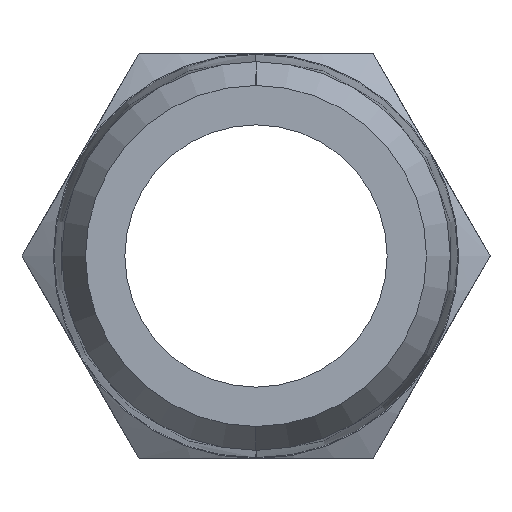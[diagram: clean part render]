
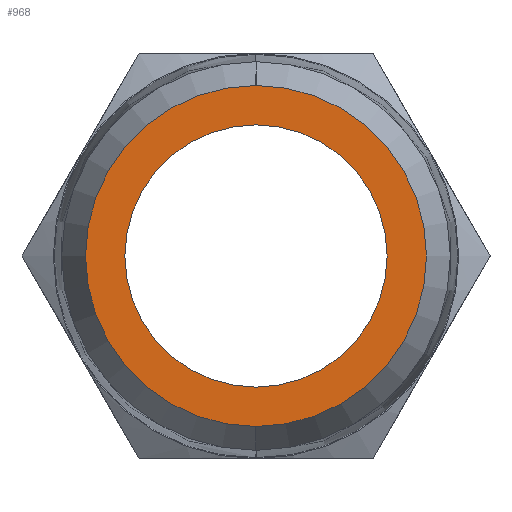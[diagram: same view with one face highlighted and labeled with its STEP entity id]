
A CAD part, front view. The second image highlights one B-rep face of the part: STEP entity #968.
In plain terms, the highlighted planar face has unit normal (0, -1, 0).
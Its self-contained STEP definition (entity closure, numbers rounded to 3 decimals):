
#19=FACE_BOUND('',#199,.T.);
#33=PLANE('',#1163);
#146=FACE_OUTER_BOUND('',#198,.T.);
#198=EDGE_LOOP('',(#849));
#199=EDGE_LOOP('',(#850));
#267=CIRCLE('',#1164,7.15);
#268=CIRCLE('',#1165,5.5);
#513=VERTEX_POINT('',#2153);
#514=VERTEX_POINT('',#2155);
#681=EDGE_CURVE('',#513,#513,#267,.T.);
#682=EDGE_CURVE('',#514,#514,#268,.T.);
#849=ORIENTED_EDGE('',*,*,#681,.T.);
#850=ORIENTED_EDGE('',*,*,#682,.T.);
#968=ADVANCED_FACE('',(#146,#19),#33,.T.);
#1163=AXIS2_PLACEMENT_3D('',#2152,#1416,#1417);
#1164=AXIS2_PLACEMENT_3D('',#2154,#1418,#1419);
#1165=AXIS2_PLACEMENT_3D('',#2156,#1420,#1421);
#1416=DIRECTION('center_axis',(0.,-1.,0.));
#1417=DIRECTION('ref_axis',(0.,0.,-1.));
#1418=DIRECTION('center_axis',(0.,-1.,0.));
#1419=DIRECTION('ref_axis',(0.,0.,1.));
#1420=DIRECTION('center_axis',(0.,1.,0.));
#1421=DIRECTION('ref_axis',(0.,0.,
1.));
#2152=CARTESIAN_POINT('Origin',(-7.236,0.,0.));
#2153=CARTESIAN_POINT('',(0.,0.,-7.15));
#2154=CARTESIAN_POINT('Origin',(0.,0.,0.));
#2155=CARTESIAN_POINT('',(0.,0.,-5.5));
#2156=CARTESIAN_POINT('Origin',(0.,0.,0.));
